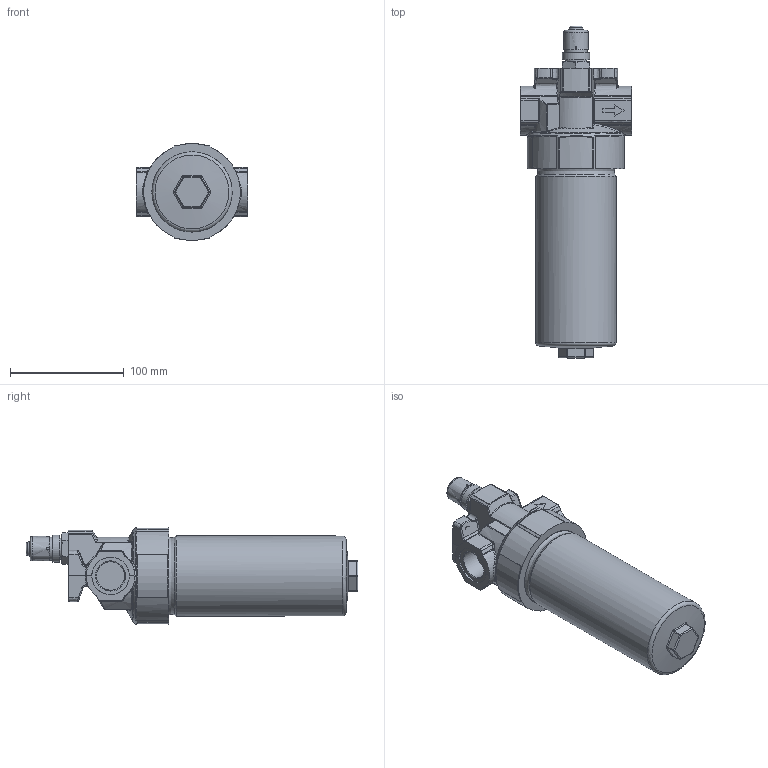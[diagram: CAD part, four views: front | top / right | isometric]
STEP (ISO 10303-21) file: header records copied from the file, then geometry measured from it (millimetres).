
FILE_DESCRIPTION((''),'2;1');
FILE_NAME('U:\Users\i.maeder\34308200_D112-156OD1.stp', '2016-08-29T09:25:06',('User'),('SDRC'),'I-DEAS Master Series 9','UNIX', 'Yes');
FILE_SCHEMA(('AUTOMOTIVE_DESIGN { 1 0 10303 214 1 1 1 1 }'));
Length unit declared in the file: millimetre
Products named in the file (1): 34308200
Bounding box: 98 x 291.8 x 84.95 mm (x, y, z)
Volume: 1014934.7 mm3; surface area: 80073.5 mm2
Topology: 1 solids, 2 shells, 454 faces, 1091 edges, 640 vertices
Faces by surface type: bspline 454
Entity records: 17691 total; most frequent: CARTESIAN_POINT 11554, ORIENTED_EDGE 2134, EDGE_CURVE 1067, VERTEX_POINT 636, B_SPLINE_CURVE_WITH_KNOTS 608, EDGE_LOOP 473, FACE_OUTER_BOUND 454, ADVANCED_FACE 454
